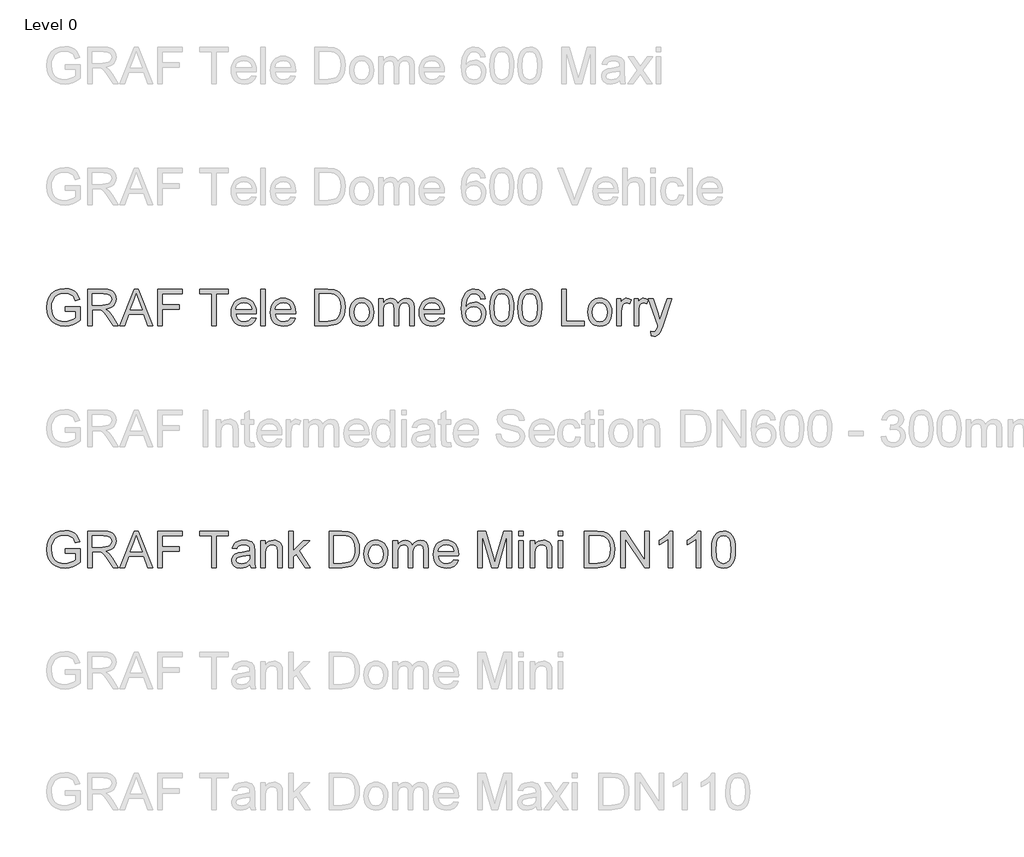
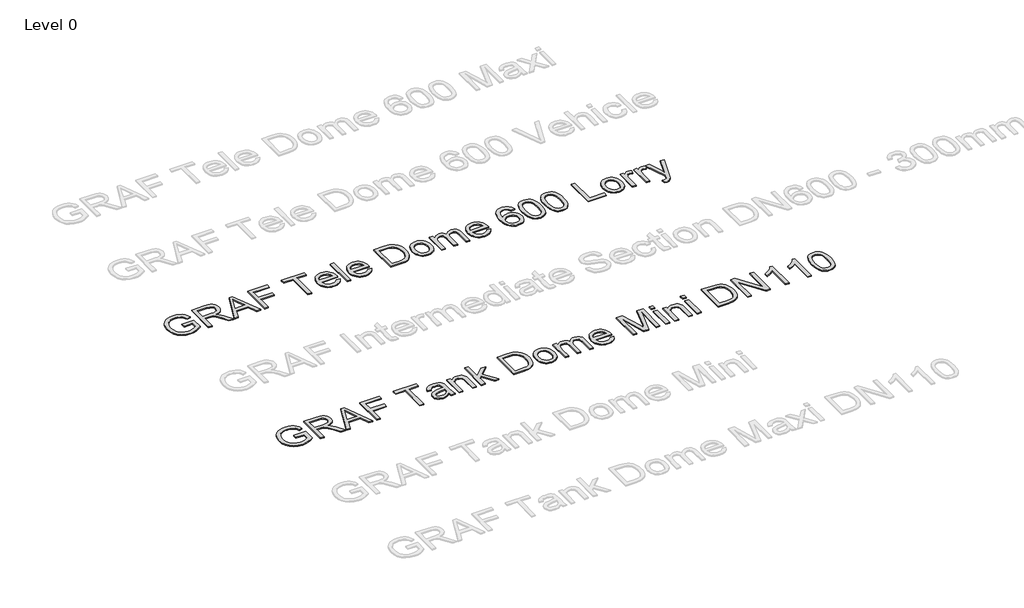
# One storey, part 5 of 19: 2 proxies.
"""IFC4 building model written with IfcOpenShell, lengths in millimetres."""

from ifc_helpers import new_model, si_unit, origin, origin_with_axes, place, context, project, spatial, polyline, outline, extrude, element, save

model = new_model("IFC4")

# Units and contexts
model_context = context("Model", 3, world=origin())
ifc_project = project(units=[si_unit("LENGTHUNIT", "METRE", prefix="MILLI")], contexts=[model_context])

# Site, building, storey
site = spatial("IfcSite", under=ifc_project)
building = spatial("IfcBuilding", under=site)
storey = spatial("IfcBuildingStorey", under=building, Name="Level 0", Elevation=0.0)

# Proxies
placement = place(None, origin())
element("IfcBuildingElementProxy", 1, Name="300mm Arial", ObjectType="300mm Arial", at=placement, inside=storey, context=model_context, shape_type="SweptSolid", body=[
    extrude(outline(polyline([(-15240.9940387, -12082.9794047), (-15240.9940387, -12045.3082884), (-15118.5629107, -12045.3082884), (-15118.5629107, -12157.9537553), (-15148.3153671, -12178.6471176), (-15179.0059225, -12193.4911561), (-15210.5610007, -12202.4306885), (-15242.9070251, -12205.4105327), (-15285.1674693, -12200.674052), (-15323.3628175, -12186.46461), (-15355.0926395, -12163.2788472), (-15377.9565055, -12131.6134045), (-15391.7796715, -12093.6295885), (-15396.3873935, -12051.4887059), (-15391.7980656, -12009.0443207), (-15378.0300819, -11969.5613856), (-15355.6536596, -11936.442809), (-15325.2390156, -11913.0914993), (-15288.1932987, -11899.2407422), (-15245.9236575, -11894.6238232), (-15214.8928112, -11897.3001647), (-15186.9889618, -11905.3291892), (-15163.4904994, -11918.1314827), (-15145.6758138, -11935.1276309), (-15132.4964413, -11957.1361712), (-15122.9039183, -11984.9756412), (-15157.6319786, -11994.7613023), (-15165.3850917, -11974.9048716), (-15174.8120678, -11959.9228773), (-15187.2832674, -11948.6289001), (-15204.169051, -11939.8365204), (-15224.3013932, -11934.1803347), (-15246.5122687, -11932.2949395), (-15272.5123287, -11934.3274875), (-15294.7415982, -11940.4251316), (-15313.1173039, -11949.8245166), (-15327.5566722, -11961.7622873), (-15346.9440533, -11990.7881767), (-15355.7732212, -12019.225455), (-15358.7162772, -12049.9436015), (-15355.175413, -12085.9684459), (-15344.5528204, -12115.6105377), (-15327.1703961, -12138.6583447), (-15303.3500369, -12154.9003348), (-15275.4737787, -12164.529646), (-15245.9236575, -12167.7394164), (-15219.831627, -12165.3205923), (-15194.3833899, -12158.0641199), (-15172.2828791, -12148.0669267), (-15156.234027, -12137.42594), (-15156.234027, -12082.9794047), (-15240.9940387, -12082.9794047)])), origin_with_axes(), (0.0, 0.0, 1.0), 10.0),
    extrude(outline(polyline([(-15057.3473467, -12200.7016432), (-15057.3473467, -11899.3327127), (-14927.4850024, -11899.3327127), (-14892.5821982, -11901.3652607), (-14867.1891434, -11907.4629048), (-14848.6294968, -11918.7200939), (-14834.2269167, -11936.2312768), (-14824.9838815, -11957.9455116), (-14821.9028698, -11981.811856), (-14827.0072325, -12011.4999331), (-14842.3203206, -12036.1112385), (-14853.9200997, -12046.1406214), (-14868.3019865, -12054.1558504), (-14905.4120827, -12064.1438466), (-14884.0013506, -12080.257078), (-14853.467145, -12119.0318402), (-14803.2144645, -12200.7016432), (-14846.9924219, -12200.7016432), (-14886.2086426, -12138.2352804), (-14914.5355562, -12096.8853441), (-14934.4379722, -12077.3508102), (-14952.3538253, -12070.1771113), (-14974.2060158, -12068.8527361), (-15019.6762304, -12068.8527361), (-15019.6762304, -12200.7016432), (-15057.3473467, -12200.7016432)]), holes=[polyline([(-15019.6762304, -12031.1816198), (-14935.3576771, -12031.1816198), (-14911.1418448, -12029.8480476), (-14892.3522719, -12025.8473309), (-14878.2072092, -12018.9127553), (-14867.9249074, -12008.7776063), (-14861.6617165, -11996.5179388), (-14859.5739861, -11983.2098076), (-14863.5563087, -11964.834102), (-14875.5032765, -11950.0268517), (-14896.058683, -11940.2595847), (-14925.8663217, -11937.003829), (-15019.6762304, -11937.003829), (-15019.6762304, -12031.1816198)])]), origin_with_axes(), (0.0, 0.0, 1.0), 10.0),
    extrude(outline(polyline([(-14791.0743586, -12200.7016432), (-14670.7769462, -11899.3327127), (-14638.6976362, -11899.3327127), (-14518.4002238, -12200.7016432), (-14558.2050557, -12200.7016432), (-14592.7123868, -12106.5238524), (-14716.835772, -12106.5238524), (-14751.2695268, -12200.7016432), (-14791.0743586, -12200.7016432)]), holes=[polyline([(-14703.003409, -12068.8527361), (-14606.4711735, -12068.8527361), (-14633.6208647, -11994.7613023), (-14654.7372912, -11937.003829), (-14673.499273, -11988.2865792), (-14703.003409, -12068.8527361)])]), origin_with_axes(), (0.0, 0.0, 1.0), 10.0),
    extrude(outline(polyline([(-14478.1539335, -12200.7016432), (-14478.1539335, -11899.3327127), (-14275.6716834, -11899.3327127), (-14275.6716834, -11937.003829), (-14440.4828172, -11937.003829), (-14440.4828172, -12026.4727303), (-14299.2161311, -12026.4727303), (-14299.2161311, -12064.1438466), (-14440.4828172, -12064.1438466), (-14440.4828172, -12200.7016432), (-14478.1539335, -12200.7016432)])), origin_with_axes(), (0.0, 0.0, 1.0), 10.0),
    extrude(outline(polyline([(-14030.8094274, -12200.7016432), (-14030.8094274, -11937.003829), (-14129.6961077, -11937.003829), (-14129.6961077, -11899.3327127), (-13894.2516308, -11899.3327127), (-13894.2516308, -11937.003829), (-13993.1383111, -11937.003829), (-13993.1383111, -12200.7016432), (-14030.8094274, -12200.7016432)])), origin_with_axes(), (0.0, 0.0, 1.0), 10.0),
    extrude(outline(polyline([(-13701.6286181, -12134.7771896), (-13664.6932658, -12139.4860792), (-13678.001397, -12167.3163521), (-13699.2373851, -12188.1200789), (-13727.9229837, -12201.0879193), (-13763.5799461, -12205.4105327), (-13786.9542484, -12203.5458308), (-13807.7809678, -12197.9517253), (-13826.0601045, -12188.6282159), (-13841.7916583, -12175.5753029), (-13854.4422004, -12159.1562696), (-13863.4783019, -12139.7343995), (-13868.8999628, -12117.3096927), (-13870.7071831, -12091.882149), (-13868.8815687, -12065.5923819), (-13863.4047255, -12042.4204147), (-13854.2766535, -12022.3662475), (-13841.4973527, -12005.4298801), (-13825.8071856, -11991.9745962), (-13807.9465147, -11982.363679), (-13787.9153401, -11976.5971288), (-13765.7136617, -11974.6749453), (-13744.2270539, -11976.5925302), (-13724.7959868, -11982.3452849), (-13707.4204603, -11991.9332094), (-13692.1004744, -12005.3563037), (-13679.5947859, -12022.2558829), (-13670.6621512, -12042.2732619), (-13665.3025704, -12065.4084409), (-13663.5160434, -12091.6614198), (-13663.7367726, -12101.8149629), (-13833.0360668, -12101.8149629), (-13826.5153584, -12130.0131178), (-13811.3678173, -12150.7432682), (-13789.5064297, -12163.4903794), (-13762.8441821, -12167.7394164), (-13742.7946134, -12165.7712477), (-13725.9088298, -12159.8667417), (-13712.1868314, -12149.6580163), (-13701.6286181, -12134.7771896)]), holes=[polyline([(-13833.0360668, -12064.1438466), (-13701.1871597, -12064.1438466), (-13706.2823254, -12044.2414306), (-13716.2703215, -12030.0043974), (-13738.2328766, -12016.7606456), (-13765.8608145, -12012.3460616), (-13791.2538692, -12015.8685317), (-13812.2507341, -12026.4359421), (-13826.8464522, -12042.9078584), (-13833.0360668, -12064.1438466)])]), origin_with_axes(), (0.0, 0.0, 1.0), 10.0),
    extrude(outline(polyline([(-13625.8449271, -12200.7016432), (-13625.8449271, -11899.3327127), (-13588.1738108, -11899.3327127), (-13588.1738108, -12200.7016432), (-13625.8449271, -12200.7016432)])), origin_with_axes(), (0.0, 0.0, 1.0), 10.0),
    extrude(outline(polyline([(-13376.71524, -12134.7771896), (-13339.7798877, -12139.4860792), (-13353.0880188, -12167.3163521), (-13374.324007, -12188.1200789), (-13403.0096056, -12201.0879193), (-13438.666568, -12205.4105327), (-13462.0408702, -12203.5458308), (-13482.8675897, -12197.9517253), (-13501.1467263, -12188.6282159), (-13516.8782801, -12175.5753029), (-13529.5288222, -12159.1562696), (-13538.5649238, -12139.7343995), (-13543.9865847, -12117.3096927), (-13545.793805, -12091.882149), (-13543.9681906, -12065.5923819), (-13538.4913474, -12042.4204147), (-13529.3632754, -12022.3662475), (-13516.5839745, -12005.4298801), (-13500.8938074, -11991.9745962), (-13483.0331366, -11982.363679), (-13463.0019619, -11976.5971288), (-13440.8002835, -11974.6749453), (-13419.3136758, -11976.5925302), (-13399.8826086, -11982.3452849), (-13382.5070821, -11991.9332094), (-13367.1870963, -12005.3563037), (-13354.6814077, -12022.2558829), (-13345.748773, -12042.2732619), (-13340.3891922, -12065.4084409), (-13338.6026653, -12091.6614198), (-13338.8233945, -12101.8149629), (-13508.1226887, -12101.8149629), (-13501.6019803, -12130.0131178), (-13486.4544391, -12150.7432682), (-13464.5930516, -12163.4903794), (-13437.930804, -12167.7394164), (-13417.8812352, -12165.7712477), (-13400.9954517, -12159.8667417), (-13387.2734532, -12149.6580163), (-13376.71524, -12134.7771896)]), holes=[polyline([(-13508.1226887, -12064.1438466), (-13376.2737816, -12064.1438466), (-13381.3689472, -12044.2414306), (-13391.3569434, -12030.0043974), (-13413.3194985, -12016.7606456), (-13440.9474363, -12012.3460616), (-13466.3404911, -12015.8685317), (-13487.3373559, -12026.4359421), (-13501.9330741, -12042.9078584), (-13508.1226887, -12064.1438466)])]), origin_with_axes(), (0.0, 0.0, 1.0), 10.0),
    extrude(outline(polyline([(-13178.500421, -12200.7016432), (-13178.500421, -11899.3327127), (-13074.5369691, -11899.3327127), (-13020.7526214, -11903.6737203), (-12996.7299272, -11912.0430357), (-12976.4596292, -11925.2316052), (-12955.6191142, -11948.1874417), (-12940.7750757, -11976.7350845), (-12931.8907255, -12010.3227107), (-12928.9292754, -12048.3984972), (-12930.9342323, -12080.7445216), (-12936.9491029, -12109.209391), (-12946.1093646, -12133.4436174), (-12957.5504947, -12153.097713), (-12970.7206701, -12168.6131361), (-12985.0680679, -12180.4313452), (-13001.5399842, -12189.1961338), (-13021.0837152, -12195.5512952), (-13069.533774, -12200.7016432), (-13178.500421, -12200.7016432)]), holes=[polyline([(-13140.8293047, -12163.0305269), (-13074.1690871, -12163.0305269), (-13046.5963316, -12161.6693635), (-13025.6822402, -12157.5858733), (-13009.9001026, -12151.0191797), (-12997.7232085, -12142.2084059), (-12984.6358066, -12125.9020365), (-12974.8041602, -12104.794807), (-12968.6513339, -12078.794747), (-12966.6003918, -12047.809886), (-12970.6195026, -12006.7542553), (-12982.6768349, -11976.4407789), (-13000.4915206, -11955.618658), (-13021.782691, -11943.0370938), (-13043.4509405, -11938.5121452), (-13075.1991567, -11937.003829), (-13140.8293047, -11937.003829), (-13140.8293047, -12163.0305269)])]), origin_with_axes(), (0.0, 0.0, 1.0), 10.0),
    extrude(outline(polyline([(-12891.2581591, -12090.042739), (-12889.2210126, -12061.3801331), (-12883.1095729, -12036.6814556), (-12872.9238402, -12015.9467067), (-12858.6638144, -11999.1758862), (-12844.3072195, -11988.4567246), (-12828.4607026, -11980.8001806), (-12811.1242635, -11976.2062541), (-12792.2979024, -11974.6749453), (-12771.514869, -11976.5396472), (-12752.7229968, -11982.1337528), (-12735.9222859, -11991.4572621), (-12721.1127364, -12004.5101751), (-12709.0255136, -12020.8510335), (-12700.391783, -12040.0383788), (-12695.2115447, -12062.0722111), (-12693.4847985, -12086.9525303), (-12696.5382191, -12125.0099227), (-12705.6984808, -12153.9806298), (-12720.6988691, -12175.6764705), (-12741.2726697, -12191.9092635), (-12765.7092312, -12202.0352154), (-12792.2979024, -12205.4105327), (-12813.3844386, -12203.5527286), (-12832.3510547, -12197.9793164), (-12849.1977508, -12188.690296), (-12863.9245269, -12175.6856675), (-12875.882991, -12159.18616), (-12884.4247511, -12139.4125028), (-12889.5498071, -12116.3646958), (-12891.2581591, -12090.042739)]), holes=[polyline([(-12853.5870428, -12089.9691626), (-12849.2276412, -12124.0626265), (-12836.1494363, -12148.3520353), (-12816.4677495, -12162.8925711), (-12792.2979024, -12167.7394164), (-12768.23842, -12162.86498), (-12748.5935214, -12148.2416707), (-12735.5153165, -12123.6303652), (-12731.1559148, -12088.7919402), (-12735.5429076, -12055.6917577), (-12748.703886, -12031.7334428), (-12768.3763757, -12017.1929069), (-12792.2979024, -12012.3460616), (-12816.4677495, -12017.1745128), (-12836.1494363, -12031.6598664), (-12849.2276412, -12055.8940928), (-12853.5870428, -12089.9691626)])]), origin_with_axes(), (0.0, 0.0, 1.0), 10.0),
    extrude(outline(polyline([(-12651.1047927, -12200.7016432), (-12651.1047927, -11979.3838349), (-12613.4336764, -11979.3838349), (-12613.4336764, -12015.8041524), (-12602.1029109, -11999.0747187), (-12587.5347839, -11985.9689226), (-12570.2259361, -11977.4984396), (-12550.673008, -11974.6749453), (-12529.7221284, -11977.5536219), (-12512.9283153, -11986.1896518), (-12500.3835393, -12000.0128178), (-12492.1797708, -12018.4529028), (-12478.4485753, -11999.3000464), (-12462.7859994, -11985.6194347), (-12445.1920429, -11977.4110677), (-12425.666706, -11974.6749453), (-12397.3489895, -11979.227485), (-12376.4073069, -11992.8851041), (-12363.4670577, -12016.0156845), (-12359.1536413, -12048.9871084), (-12359.1536413, -12200.7016432), (-12396.8247576, -12200.7016432), (-12396.8247576, -12065.1739161), (-12400.3196366, -12033.7200056), (-12405.2308612, -12025.0471875), (-12412.9747772, -12018.2321736), (-12422.9351822, -12013.8175896), (-12434.4958739, -12012.3460616), (-12454.9041276, -12016.1168521), (-12471.5415908, -12027.4292234), (-12482.6056419, -12047.0557279), (-12486.2936589, -12075.7689176), (-12486.2936589, -12200.7016432), (-12523.9647752, -12200.7016432), (-12523.9647752, -12060.9800614), (-12526.144476, -12039.6796939), (-12532.6835784, -12024.4861675), (-12544.1890878, -12015.3810881), (-12561.2680095, -12012.3460616), (-12575.7809542, -12014.3694126), (-12589.1534647, -12020.4394655), (-12600.1899246, -12030.4090676), (-12607.6947173, -12044.131066), (-12611.9989366, -12063.1689593), (-12613.4336764, -12089.0862458), (-12613.4336764, -12200.7016432), (-12651.1047927, -12200.7016432)])), origin_with_axes(), (0.0, 0.0, 1.0), 10.0),
    extrude(outline(polyline([(-12147.6950705, -12134.7771896), (-12110.7597182, -12139.4860792), (-12124.0678494, -12167.3163521), (-12145.3038375, -12188.1200789), (-12173.9894361, -12201.0879193), (-12209.6463985, -12205.4105327), (-12233.0207007, -12203.5458308), (-12253.8474202, -12197.9517253), (-12272.1265568, -12188.6282159), (-12287.8581107, -12175.5753029), (-12300.5086528, -12159.1562696), (-12309.5447543, -12139.7343995), (-12314.9664152, -12117.3096927), (-12316.7736355, -12091.882149), (-12314.9480211, -12065.5923819), (-12309.4711779, -12042.4204147), (-12300.3431059, -12022.3662475), (-12287.5638051, -12005.4298801), (-12271.873638, -11991.9745962), (-12254.0129671, -11982.363679), (-12233.9817925, -11976.5971288), (-12211.7801141, -11974.6749453), (-12190.2935063, -11976.5925302), (-12170.8624391, -11982.3452849), (-12153.4869127, -11991.9332094), (-12138.1669268, -12005.3563037), (-12125.6612382, -12022.2558829), (-12116.7286035, -12042.2732619), (-12111.3690227, -12065.4084409), (-12109.5824958, -12091.6614198), (-12109.803225, -12101.8149629), (-12279.1025192, -12101.8149629), (-12272.5818108, -12130.0131178), (-12257.4342697, -12150.7432682), (-12235.5728821, -12163.4903794), (-12208.9106345, -12167.7394164), (-12188.8610658, -12165.7712477), (-12171.9752822, -12159.8667417), (-12158.2532838, -12149.6580163), (-12147.6950705, -12134.7771896)]), holes=[polyline([(-12279.1025192, -12064.1438466), (-12147.2536121, -12064.1438466), (-12152.3487777, -12044.2414306), (-12162.3367739, -12030.0043974), (-12184.299329, -12016.7606456), (-12211.9272668, -12012.3460616), (-12237.3203216, -12015.8685317), (-12258.3171864, -12026.4359421), (-12272.9129046, -12042.9078584), (-12279.1025192, -12064.1438466)])]), origin_with_axes(), (0.0, 0.0, 1.0), 10.0),
    extrude(outline(polyline([(-11770.542449, -11979.3838349), (-11808.2135653, -11984.0927244), (-11814.2836183, -11965.4227132), (-11822.4873868, -11952.675602), (-11839.5755054, -11940.9217723), (-11860.2320795, -11937.003829), (-11877.7432624, -11939.2846974), (-11894.2243758, -11946.1273025), (-11908.3786356, -11960.5390797), (-11919.9393273, -11980.3771163), (-11927.7476226, -12008.4373154), (-11930.6446933, -12047.5155804), (-11915.5339404, -12029.8848358), (-11897.4249492, -12017.4596214), (-11877.3293952, -12010.0927844), (-11856.2589539, -12007.6371721), (-11838.1591597, -12009.3156337), (-11821.4573172, -12014.3510185), (-11806.1534262, -12022.7433265), (-11792.2474868, -12034.4925578), (-11780.6913936, -12048.8997364), (-11772.4370413, -12065.2658866), (-11767.48443, -12083.5910085), (-11765.8335595, -12103.875102), (-11768.9421624, -12130.8500493), (-11778.2679709, -12155.856828), (-11793.038433, -12177.065225), (-11812.4809965, -12192.6450275), (-11835.7127445, -12202.2191564), (-11861.8507602, -12205.4105327), (-11884.3076568, -12203.2952112), (-11904.589451, -12196.9492468), (-11922.696143, -12186.3726395), (-11938.6277326, -12171.5653892), (-11951.6162663, -12151.9020965), (-11960.8937904, -12126.7573621), (-11966.4603048, -12096.131186), (-11968.3158096, -12060.0235682), (-11966.2556705, -12019.5427532), (-11960.075253, -11984.9940353), (-11949.7745571, -11956.3774146), (-11935.3535829, -11933.6928911), (-11919.7231966, -11918.660313), (-11901.6004098, -11907.9227573), (-11880.9852225, -11901.4802239), (-11857.8776347, -11899.3327127), (-11824.8234374, -11904.6486076), (-11798.3543279, -11920.596292), (-11779.8130753, -11945.9249674), (-11770.542449, -11979.3838349)]), holes=[polyline([(-11930.6446933, -12103.2864908), (-11928.4649925, -12119.9791364), (-11921.9258901, -12135.9176238), (-11911.772347, -12149.6212281), (-11898.7493244, -12159.6092243), (-11883.0315661, -12165.7068684), (-11864.7938162, -12167.7394164), (-11839.9341904, -12163.5271676), (-11820.3904594, -12150.890421), (-11807.7261217, -12131.0247933), (-11803.5046758, -12105.1259008), (-11807.6709394, -12080.266275), (-11820.1697302, -12061.3111552), (-11840.044555, -12049.3090051), (-11866.3389206, -12045.3082884), (-11891.1617582, -12049.3090051), (-11911.9194998, -12061.3111552), (-11925.9633949, -12079.8064225), (-11930.6446933, -12103.2864908)])]), origin_with_axes(), (0.0, 0.0, 1.0), 10.0),
    extrude(outline(polyline([(-11732.8713327, -12052.4451991), (-11730.1030207, -12004.2066725), (-11721.7980847, -11965.7354129), (-11708.0392981, -11936.442809), (-11688.9094343, -11915.7402497), (-11664.2705377, -11903.434597), (-11633.9846524, -11899.3327127), (-11610.7712985, -11901.7607339), (-11589.9859658, -11909.0447974), (-11572.6035415, -11920.8997947), (-11559.598913, -11937.0406172), (-11549.7764637, -11957.3293093), (-11541.9405772, -11981.627915), (-11536.8086234, -12012.4840174), (-11535.0979721, -12052.4451991), (-11537.838693, -12100.4078142), (-11546.0608556, -12138.7871034), (-11559.7368687, -12168.1072984), (-11578.8391413, -12188.8926311), (-11603.5332203, -12201.2810573), (-11633.9846524, -12205.4105327), (-11654.733197, -12203.617108), (-11673.1272967, -12198.2368338), (-11689.1669517, -12189.2697102), (-11702.8521619, -12176.7157371), (-11715.9855492, -12154.0220165), (-11725.36654, -12125.7456867), (-11730.9951346, -12091.8867475), (-11732.8713327, -12052.4451991)]), holes=[polyline([(-11695.2002164, -12052.3716227), (-11690.7856325, -12111.6282151), (-11685.2674026, -12131.8962138), (-11677.5418807, -12145.9240141), (-11657.8234057, -12162.2855658), (-11633.9846524, -12167.7394164), (-11610.1458991, -12162.2671717), (-11590.4274242, -12145.8504377), (-11582.7019023, -12131.7996447), (-11577.1836724, -12111.5362446), (-11572.7690884, -12052.3716227), (-11577.0365196, -11994.4486026), (-11582.3708085, -11974.2472825), (-11589.838813, -11959.8860891), (-11609.5204997, -11942.7243941), (-11634.4261108, -11937.003829), (-11658.0073467, -11942.0438124), (-11676.9532695, -11957.1637624), (-11684.9363088, -11972.7987472), (-11690.6384797, -11993.8783855), (-11695.2002164, -12052.3716227)])]), origin_with_axes(), (0.0, 0.0, 1.0), 10.0),
    extrude(outline(polyline([(-11502.1357454, -12052.4451991), (-11499.3674333, -12004.2066725), (-11491.0624973, -11965.7354129), (-11477.3037107, -11936.442809), (-11458.1738469, -11915.7402497), (-11433.5349503, -11903.434597), (-11403.2490651, -11899.3327127), (-11380.0357112, -11901.7607339), (-11359.2503784, -11909.0447974), (-11341.8679542, -11920.8997947), (-11328.8633256, -11937.0406172), (-11319.0408764, -11957.3293093), (-11311.2049899, -11981.627915), (-11306.073036, -12012.4840174), (-11304.3623847, -12052.4451991), (-11307.1031056, -12100.4078142), (-11315.3252682, -12138.7871034), (-11329.0012814, -12168.1072984), (-11348.103554, -12188.8926311), (-11372.7976329, -12201.2810573), (-11403.2490651, -12205.4105327), (-11423.9976096, -12203.617108), (-11442.3917093, -12198.2368338), (-11458.4313643, -12189.2697102), (-11472.1165745, -12176.7157371), (-11485.2499618, -12154.0220165), (-11494.6309527, -12125.7456867), (-11500.2595472, -12091.8867475), (-11502.1357454, -12052.4451991)]), holes=[polyline([(-11464.464629, -12052.3716227), (-11460.0500451, -12111.6282151), (-11454.5318152, -12131.8962138), (-11446.8062933, -12145.9240141), (-11427.0878183, -12162.2855658), (-11403.2490651, -12167.7394164), (-11379.4103118, -12162.2671717), (-11359.6918368, -12145.8504377), (-11351.9663149, -12131.7996447), (-11346.448085, -12111.5362446), (-11342.0335011, -12052.3716227), (-11346.3009322, -11994.4486026), (-11351.6352211, -11974.2472825), (-11359.1032256, -11959.8860891), (-11378.7849124, -11942.7243941), (-11403.6905234, -11937.003829), (-11427.2717593, -11942.0438124), (-11446.2176821, -11957.1637624), (-11454.2007214, -11972.7987472), (-11459.9028923, -11993.8783855), (-11464.464629, -12052.3716227)])]), origin_with_axes(), (0.0, 0.0, 1.0), 10.0),
    extrude(outline(polyline([(-11139.5512509, -12200.7016432), (-11139.5512509, -11899.3327127), (-11101.8801346, -11899.3327127), (-11101.8801346, -12163.0305269), (-10951.1956694, -12163.0305269), (-10951.1956694, -12200.7016432), (-11139.5512509, -12200.7016432)])), origin_with_axes(), (0.0, 0.0, 1.0), 10.0),
    extrude(outline(polyline([(-10922.9423321, -12090.042739), (-10920.9051856, -12061.3801331), (-10914.793746, -12036.6814556), (-10904.6080132, -12015.9467067), (-10890.3479874, -11999.1758862), (-10875.9913925, -11988.4567246), (-10860.1448756, -11980.8001806), (-10842.8084365, -11976.2062541), (-10823.9820754, -11974.6749453), (-10803.199042, -11976.5396472), (-10784.4071698, -11982.1337528), (-10767.6064589, -11991.4572621), (-10752.7969094, -12004.5101751), (-10740.7096866, -12020.8510335), (-10732.075956, -12040.0383788), (-10726.8957177, -12062.0722111), (-10725.1689715, -12086.9525303), (-10728.2223921, -12125.0099227), (-10737.3826538, -12153.9806298), (-10752.3830421, -12175.6764705), (-10772.9568427, -12191.9092635), (-10797.3934042, -12202.0352154), (-10823.9820754, -12205.4105327), (-10845.0686116, -12203.5527286), (-10864.0352277, -12197.9793164), (-10880.8819238, -12188.690296), (-10895.6086999, -12175.6856675), (-10907.567164, -12159.18616), (-10916.1089241, -12139.4125028), (-10921.2339801, -12116.3646958), (-10922.9423321, -12090.042739)]), holes=[polyline([(-10885.2712158, -12089.9691626), (-10880.9118142, -12124.0626265), (-10867.8336093, -12148.3520353), (-10848.1519225, -12162.8925711), (-10823.9820754, -12167.7394164), (-10799.922593, -12162.86498), (-10780.2776944, -12148.2416707), (-10767.1994895, -12123.6303652), (-10762.8400878, -12088.7919402), (-10767.2270806, -12055.6917577), (-10780.388059, -12031.7334428), (-10800.0605487, -12017.1929069), (-10823.9820754, -12012.3460616), (-10848.1519225, -12017.1745128), (-10867.8336093, -12031.6598664), (-10880.9118142, -12055.8940928), (-10885.2712158, -12089.9691626)])]), origin_with_axes(), (0.0, 0.0, 1.0), 10.0),
    extrude(outline(polyline([(-10682.7889657, -12200.7016432), (-10682.7889657, -11979.3838349), (-10649.8267389, -11979.3838349), (-10649.8267389, -12012.1253324), (-10637.6498449, -11993.1426215), (-10626.429444, -11981.9590088), (-10615.172255, -11976.4959612), (-10602.8849963, -11974.6749453), (-10584.1230146, -11977.5812131), (-10565.0667272, -11986.3000164), (-10577.6482915, -12020.0715835), (-10590.8920433, -12014.2774421), (-10604.1357951, -12012.3460616), (-10615.3837871, -12014.2038657), (-10625.4361626, -12019.7772779), (-10633.5571577, -12028.643234), (-10639.0110083, -12040.3786697), (-10643.5911391, -12061.4215198), (-10645.1178494, -12084.3773563), (-10645.1178494, -12200.7016432), (-10682.7889657, -12200.7016432)])), origin_with_axes(), (0.0, 0.0, 1.0), 10.0),
    extrude(outline(polyline([(-10541.5222795, -12200.7016432), (-10541.5222795, -11979.3838349), (-10508.5600528, -11979.3838349), (-10508.5600528, -12012.1253324), (-10496.3831587, -11993.1426215), (-10485.1627579, -11981.9590088), (-10473.9055688, -11976.4959612), (-10461.6183102, -11974.6749453), (-10442.8563284, -11977.5812131), (-10423.8000411, -11986.3000164), (-10436.3816053, -12020.0715835), (-10449.6253572, -12014.2774421), (-10462.869109, -12012.3460616), (-10474.117101, -12014.2038657), (-10484.1694765, -12019.7772779), (-10492.2904715, -12028.643234), (-10497.7443221, -12040.3786697), (-10502.324453, -12061.4215198), (-10503.8511632, -12084.3773563), (-10503.8511632, -12200.7016432), (-10541.5222795, -12200.7016432)])), origin_with_axes(), (0.0, 0.0, 1.0), 10.0),
    extrude(outline(polyline([(-10400.2555934, -12285.4616549), (-10404.9644829, -12249.1884901), (-10385.8346192, -12252.4994281), (-10367.9555542, -12248.3423615), (-10356.9926708, -12236.7540787), (-10346.6919749, -12209.0157763), (-10343.7489189, -12199.8923028), (-10423.8000411, -11979.3838349), (-10384.0687856, -11979.3838349), (-10341.6152034, -12102.2564213), (-10326.8263472, -12151.4054558), (-10312.037491, -12107.9953804), (-10268.4066863, -11979.3838349), (-10228.9697364, -11979.3838349), (-10306.0042262, -12205.9991439), (-10326.0170068, -12255.1481785), (-10336.2625203, -12270.8383456), (-10347.8691973, -12281.7092585), (-10361.3520724, -12288.0552229), (-10377.2261805, -12290.1705444), (-10400.2555934, -12285.4616549)])), origin_with_axes(), (0.0, 0.0, 1.0), 10.0),
])
element("IfcBuildingElementProxy", 2, Name="300mm Arial", ObjectType="300mm Arial", at=placement, inside=storey, context=model_context, shape_type="SweptSolid", body=[
    extrude(outline(polyline([(-15240.9940387, -14082.9794047), (-15240.9940387, -14045.3082884), (-15118.5629107, -14045.3082884), (-15118.5629107, -14157.9537553), (-15148.3153671, -14178.6471176), (-15179.0059225, -14193.4911561), (-15210.5610007, -14202.4306885), (-15242.9070251, -14205.4105327), (-15285.1674693, -14200.674052), (-15323.3628175, -14186.46461), (-15355.0926395, -14163.2788472), (-15377.9565055, -14131.6134045), (-15391.7796715, -14093.6295885), (-15396.3873935, -14051.4887059), (-15391.7980656, -14009.0443207), (-15378.0300819, -13969.5613856), (-15355.6536596, -13936.442809), (-15325.2390156, -13913.0914993), (-15288.1932987, -13899.2407422), (-15245.9236575, -13894.6238232), (-15214.8928112, -13897.3001647), (-15186.9889618, -13905.3291892), (-15163.4904994, -13918.1314827), (-15145.6758138, -13935.1276309), (-15132.4964413, -13957.1361712), (-15122.9039183, -13984.9756412), (-15157.6319786, -13994.7613023), (-15165.3850917, -13974.9048716), (-15174.8120678, -13959.9228773), (-15187.2832674, -13948.6289001), (-15204.169051, -13939.8365204), (-15224.3013932, -13934.1803347), (-15246.5122687, -13932.2949395), (-15272.5123287, -13934.3274875), (-15294.7415982, -13940.4251316), (-15313.1173039, -13949.8245166), (-15327.5566722, -13961.7622873), (-15346.9440533, -13990.7881767), (-15355.7732212, -14019.225455), (-15358.7162772, -14049.9436015), (-15355.175413, -14085.9684459), (-15344.5528204, -14115.6105377), (-15327.1703961, -14138.6583447), (-15303.3500369, -14154.9003348), (-15275.4737787, -14164.529646), (-15245.9236575, -14167.7394164), (-15219.831627, -14165.3205923), (-15194.3833899, -14158.0641199), (-15172.2828791, -14148.0669267), (-15156.234027, -14137.42594), (-15156.234027, -14082.9794047), (-15240.9940387, -14082.9794047)])), origin_with_axes(), (0.0, 0.0, 1.0), 10.0),
    extrude(outline(polyline([(-15057.3473467, -14200.7016432), (-15057.3473467, -13899.3327127), (-14927.4850024, -13899.3327127), (-14892.5821982, -13901.3652607), (-14867.1891434, -13907.4629048), (-14848.6294968, -13918.7200939), (-14834.2269167, -13936.2312768), (-14824.9838815, -13957.9455116), (-14821.9028698, -13981.811856), (-14827.0072325, -14011.4999331), (-14842.3203206, -14036.1112385), (-14853.9200997, -14046.1406214), (-14868.3019865, -14054.1558504), (-14905.4120827, -14064.1438466), (-14884.0013506, -14080.257078), (-14853.467145, -14119.0318402), (-14803.2144645, -14200.7016432), (-14846.9924219, -14200.7016432), (-14886.2086426, -14138.2352804), (-14914.5355562, -14096.8853441), (-14934.4379722, -14077.3508102), (-14952.3538253, -14070.1771113), (-14974.2060158, -14068.8527361), (-15019.6762304, -14068.8527361), (-15019.6762304, -14200.7016432), (-15057.3473467, -14200.7016432)]), holes=[polyline([(-15019.6762304, -14031.1816198), (-14935.3576771, -14031.1816198), (-14911.1418448, -14029.8480476), (-14892.3522719, -14025.8473309), (-14878.2072092, -14018.9127553), (-14867.9249074, -14008.7776063), (-14861.6617165, -13996.5179388), (-14859.5739861, -13983.2098076), (-14863.5563087, -13964.834102), (-14875.5032765, -13950.0268517), (-14896.058683, -13940.2595847), (-14925.8663217, -13937.003829), (-15019.6762304, -13937.003829), (-15019.6762304, -14031.1816198)])]), origin_with_axes(), (0.0, 0.0, 1.0), 10.0),
    extrude(outline(polyline([(-14791.0743586, -14200.7016432), (-14670.7769462, -13899.3327127), (-14638.6976362, -13899.3327127), (-14518.4002238, -14200.7016432), (-14558.2050557, -14200.7016432), (-14592.7123868, -14106.5238524), (-14716.835772, -14106.5238524), (-14751.2695268, -14200.7016432), (-14791.0743586, -14200.7016432)]), holes=[polyline([(-14703.003409, -14068.8527361), (-14606.4711735, -14068.8527361), (-14633.6208647, -13994.7613023), (-14654.7372912, -13937.003829), (-14673.499273, -13988.2865792), (-14703.003409, -14068.8527361)])]), origin_with_axes(), (0.0, 0.0, 1.0), 10.0),
    extrude(outline(polyline([(-14478.1539335, -14200.7016432), (-14478.1539335, -13899.3327127), (-14275.6716834, -13899.3327127), (-14275.6716834, -13937.003829), (-14440.4828172, -13937.003829), (-14440.4828172, -14026.4727303), (-14299.2161311, -14026.4727303), (-14299.2161311, -14064.1438466), (-14440.4828172, -14064.1438466), (-14440.4828172, -14200.7016432), (-14478.1539335, -14200.7016432)])), origin_with_axes(), (0.0, 0.0, 1.0), 10.0),
    extrude(outline(polyline([(-14030.8094274, -14200.7016432), (-14030.8094274, -13937.003829), (-14129.6961077, -13937.003829), (-14129.6961077, -13899.3327127), (-13894.2516308, -13899.3327127), (-13894.2516308, -13937.003829), (-13993.1383111, -13937.003829), (-13993.1383111, -14200.7016432), (-14030.8094274, -14200.7016432)])), origin_with_axes(), (0.0, 0.0, 1.0), 10.0),
    extrude(outline(polyline([(-13715.3138283, -14172.4483059), (-13733.312455, -14187.8809556), (-13751.8445105, -14197.9793164), (-13771.3330592, -14203.5527286), (-13792.2011653, -14205.4105327), (-13823.6826671, -14200.9407665), (-13846.905218, -14187.5314677), (-13861.2250247, -14167.1691993), (-13865.9982936, -14141.8405239), (-13864.1956718, -14126.2239332), (-13858.7878065, -14112.0420823), (-13850.4460822, -14099.9019765), (-13839.8418837, -14090.410621), (-13813.4647447, -14078.049786), (-13780.8703999, -14072.3844033), (-13742.353155, -14066.4247149), (-13715.5345575, -14059.434957), (-13715.3138283, -14051.0472475), (-13717.9073964, -14034.2350404), (-13725.6881006, -14023.2353687), (-13743.088919, -14015.0683884), (-13767.3323425, -14012.3460616), (-13789.7731442, -14014.1578805), (-13805.4449172, -14019.5933369), (-13816.1318891, -14029.6457125), (-13823.6182877, -14045.3082884), (-13861.289404, -14040.5993989), (-13854.7503016, -14019.9980071), (-13844.9922316, -14003.8111994), (-13831.1046863, -13991.4319702), (-13812.1771577, -13982.2533144), (-13789.0281831, -13976.5695376), (-13762.4763001, -13974.6749453), (-13737.009669, -13976.3488084), (-13716.8221445, -13981.3703976), (-13701.601027, -13988.9211756), (-13691.0336167, -13998.1826048), (-13684.0254646, -14009.6329319), (-13679.482122, -14023.7504035), (-13677.642712, -14056.7126303), (-13677.642712, -14103.5807964), (-13675.7297257, -14169.0270034), (-13668.224933, -14200.7016432), (-13705.8960493, -14200.7016432), (-13715.3138283, -14172.4483059)]), holes=[polyline([(-13715.3138283, -14097.1060733), (-13776.0879339, -14108.657568), (-13808.4983377, -14114.7644091), (-13823.1768293, -14124.697223), (-13828.3271773, -14139.1917736), (-13825.522077, -14150.3937803), (-13817.1067764, -14159.5724361), (-13803.2652163, -14165.6976713), (-13784.1813378, -14167.7394164), (-13763.9478281, -14165.4861392), (-13746.0687631, -14158.7263075), (-13731.5742125, -14148.7659025), (-13721.4942459, -14136.9109052), (-13717.0244796, -14124.697223), (-13715.5345575, -14107.7746512), (-13715.3138283, -14097.1060733)])]), origin_with_axes(), (0.0, 0.0, 1.0), 10.0),
    extrude(outline(polyline([(-13625.8449271, -14200.7016432), (-13625.8449271, -13979.3838349), (-13588.1738108, -13979.3838349), (-13588.1738108, -14010.2859225), (-13575.0864088, -13994.70612), (-13559.3686506, -13983.5776896), (-13541.0205361, -13976.9006314), (-13520.0420653, -13974.6749453), (-13501.4732216, -13976.4683701), (-13484.4678764, -13981.8486442), (-13470.2860255, -13990.1443832), (-13460.1876647, -14000.6842024), (-13448.8936874, -14028.3857166), (-13446.9071247, -14064.8060342), (-13446.9071247, -14200.7016432), (-13484.578241, -14200.7016432), (-13484.578241, -14069.8828057), (-13488.9192485, -14036.5526969), (-13494.9249221, -14026.6290801), (-13504.2599277, -14018.9311494), (-13516.2252896, -14013.9923336), (-13530.122032, -14012.3460616), (-13552.1857546, -14016.0432757), (-13570.9937216, -14027.1349178), (-13578.5100106, -14036.1894135), (-13583.8787885, -14048.5640441), (-13588.1738108, -14083.2737103), (-13588.1738108, -14200.7016432), (-13625.8449271, -14200.7016432)])), origin_with_axes(), (0.0, 0.0, 1.0), 10.0),
    extrude(outline(polyline([(-13395.1093397, -14200.7016432), (-13395.1093397, -13899.3327127), (-13357.4382234, -13899.3327127), (-13357.4382234, -14061.274367), (-13272.9725173, -13979.3838349), (-13220.8804268, -13979.3838349), (-13306.3762025, -14062.3044366), (-13216.1715373, -14200.7016432), (-13260.1702239, -14200.7016432), (-13333.3787409, -14088.4976346), (-13357.4382234, -14111.8213531), (-13357.4382234, -14200.7016432), (-13395.1093397, -14200.7016432)])), origin_with_axes(), (0.0, 0.0, 1.0), 10.0),
    extrude(outline(polyline([(-13060.7781825, -14200.7016432), (-13060.7781825, -13899.3327127), (-12956.8147307, -13899.3327127), (-12903.030383, -13903.6737203), (-12879.0076887, -13912.0430357), (-12858.7373908, -13925.2316052), (-12837.8968757, -13948.1874417), (-12823.0528372, -13976.7350845), (-12814.1684871, -14010.3227107), (-12811.207037, -14048.3984972), (-12813.2119939, -14080.7445216), (-12819.2268645, -14109.209391), (-12828.3871262, -14133.4436174), (-12839.8282562, -14153.097713), (-12852.9984316, -14168.6131361), (-12867.3458295, -14180.4313452), (-12883.8177458, -14189.1961338), (-12903.3614768, -14195.5512952), (-12951.8115355, -14200.7016432), (-13060.7781825, -14200.7016432)]), holes=[polyline([(-13023.1070662, -14163.0305269), (-12956.4468487, -14163.0305269), (-12928.8740931, -14161.6693635), (-12907.9600017, -14157.5858733), (-12892.1778641, -14151.0191797), (-12880.0009701, -14142.2084059), (-12866.9135681, -14125.9020365), (-12857.0819218, -14104.794807), (-12850.9290954, -14078.794747), (-12848.8781533, -14047.809886), (-12852.8972641, -14006.7542553), (-12864.9545965, -13976.4407789), (-12882.7692821, -13955.618658), (-12904.0604526, -13943.0370938), (-12925.7287021, -13938.5121452), (-12957.4769183, -13937.003829), (-13023.1070662, -13937.003829), (-13023.1070662, -14163.0305269)])]), origin_with_axes(), (0.0, 0.0, 1.0), 10.0),
    extrude(outline(polyline([(-12773.5359207, -14090.042739), (-12771.4987741, -14061.3801331), (-12765.3873345, -14036.6814556), (-12755.2016018, -14015.9467067), (-12740.9415759, -13999.1758862), (-12726.5849811, -13988.4567246), (-12710.7384641, -13980.8001806), (-12693.4020251, -13976.2062541), (-12674.575664, -13974.6749453), (-12653.7926305, -13976.5396472), (-12635.0007584, -13982.1337528), (-12618.2000475, -13991.4572621), (-12603.3904979, -14004.5101751), (-12591.3032751, -14020.8510335), (-12582.6695445, -14040.0383788), (-12577.4893062, -14062.0722111), (-12575.7625601, -14086.9525303), (-12578.8159806, -14125.0099227), (-12587.9762423, -14153.9806298), (-12602.9766307, -14175.6764705), (-12623.5504313, -14191.9092635), (-12647.9869928, -14202.0352154), (-12674.575664, -14205.4105327), (-12695.6622001, -14203.5527286), (-12714.6288162, -14197.9793164), (-12731.4755123, -14188.690296), (-12746.2022884, -14175.6856675), (-12758.1607526, -14159.18616), (-12766.7025126, -14139.4125028), (-12771.8275687, -14116.3646958), (-12773.5359207, -14090.042739)]), holes=[polyline([(-12735.8648044, -14089.9691626), (-12731.5054027, -14124.0626265), (-12718.4271978, -14148.3520353), (-12698.7455111, -14162.8925711), (-12674.575664, -14167.7394164), (-12650.5161815, -14162.86498), (-12630.871283, -14148.2416707), (-12617.793078, -14123.6303652), (-12613.4336764, -14088.7919402), (-12617.8206692, -14055.6917577), (-12630.9816476, -14031.7334428), (-12650.6541372, -14017.1929069), (-12674.575664, -14012.3460616), (-12698.7455111, -14017.1745128), (-12718.4271978, -14031.6598664), (-12731.5054027, -14055.8940928), (-12735.8648044, -14089.9691626)])]), origin_with_axes(), (0.0, 0.0, 1.0), 10.0),
    extrude(outline(polyline([(-12533.3825542, -14200.7016432), (-12533.3825542, -13979.3838349), (-12495.7114379, -13979.3838349), (-12495.7114379, -14015.8041524), (-12484.3806725, -13999.0747187), (-12469.8125455, -13985.9689226), (-12452.5036976, -13977.4984396), (-12432.9507696, -13974.6749453), (-12411.9998899, -13977.5536219), (-12395.2060768, -13986.1896518), (-12382.6613008, -14000.0128178), (-12374.4575323, -14018.4529028), (-12360.7263368, -13999.3000464), (-12345.0637609, -13985.6194347), (-12327.4698045, -13977.4110677), (-12307.9444676, -13974.6749453), (-12279.626751, -13979.227485), (-12258.6850684, -13992.8851041), (-12245.7448193, -14016.0156845), (-12241.4314029, -14048.9871084), (-12241.4314029, -14200.7016432), (-12279.1025192, -14200.7016432), (-12279.1025192, -14065.1739161), (-12282.5973981, -14033.7200056), (-12287.5086228, -14025.0471875), (-12295.2525388, -14018.2321736), (-12305.2129438, -14013.8175896), (-12316.7736355, -14012.3460616), (-12337.1818892, -14016.1168521), (-12353.8193524, -14027.4292234), (-12364.8834034, -14047.0557279), (-12368.5714204, -14075.7689176), (-12368.5714204, -14200.7016432), (-12406.2425367, -14200.7016432), (-12406.2425367, -14060.9800614), (-12408.4222375, -14039.6796939), (-12414.96134, -14024.4861675), (-12426.4668494, -14015.3810881), (-12443.545771, -14012.3460616), (-12458.0587157, -14014.3694126), (-12471.4312262, -14020.4394655), (-12482.4676861, -14030.4090676), (-12489.9724788, -14044.131066), (-12494.2766981, -14063.1689593), (-12495.7114379, -14089.0862458), (-12495.7114379, -14200.7016432), (-12533.3825542, -14200.7016432)])), origin_with_axes(), (0.0, 0.0, 1.0), 10.0),
    extrude(outline(polyline([(-12029.972832, -14134.7771896), (-11993.0374797, -14139.4860792), (-12006.3456109, -14167.3163521), (-12027.5815991, -14188.1200789), (-12056.2671976, -14201.0879193), (-12091.92416, -14205.4105327), (-12115.2984623, -14203.5458308), (-12136.1251817, -14197.9517253), (-12154.4043184, -14188.6282159), (-12170.1358722, -14175.5753029), (-12182.7864143, -14159.1562696), (-12191.8225158, -14139.7343995), (-12197.2441767, -14117.3096927), (-12199.051397, -14091.882149), (-12197.2257826, -14065.5923819), (-12191.7489394, -14042.4204147), (-12182.6208674, -14022.3662475), (-12169.8415666, -14005.4298801), (-12154.1513995, -13991.9745962), (-12136.2907286, -13982.363679), (-12116.259554, -13976.5971288), (-12094.0578756, -13974.6749453), (-12072.5712678, -13976.5925302), (-12053.1402007, -13982.3452849), (-12035.7646742, -13991.9332094), (-12020.4446884, -14005.3563037), (-12007.9389998, -14022.2558829), (-11999.0063651, -14042.2732619), (-11993.6467843, -14065.4084409), (-11991.8602573, -14091.6614198), (-11992.0809865, -14101.8149629), (-12161.3802807, -14101.8149629), (-12154.8595723, -14130.0131178), (-12139.7120312, -14150.7432682), (-12117.8506436, -14163.4903794), (-12091.188396, -14167.7394164), (-12071.1388273, -14165.7712477), (-12054.2530437, -14159.8667417), (-12040.5310453, -14149.6580163), (-12029.972832, -14134.7771896)]), holes=[polyline([(-12161.3802807, -14064.1438466), (-12029.5313736, -14064.1438466), (-12034.6265393, -14044.2414306), (-12044.6145354, -14030.0043974), (-12066.5770906, -14016.7606456), (-12094.2050284, -14012.3460616), (-12119.5980831, -14015.8685317), (-12140.594948, -14026.4359421), (-12155.1906661, -14042.9078584), (-12161.3802807, -14064.1438466)])]), origin_with_axes(), (0.0, 0.0, 1.0), 10.0),
    extrude(outline(polyline([(-11831.758013, -14200.7016432), (-11831.758013, -13899.3327127), (-11766.9372055, -13899.3327127), (-11705.2801831, -14111.7477767), (-11692.8457717, -14156.1143454), (-11679.3812906, -14108.0689568), (-11618.7543378, -13899.3327127), (-11553.9335303, -13899.3327127), (-11553.9335303, -14200.7016432), (-11591.6046466, -14200.7016432), (-11591.6046466, -13937.003829), (-11667.3147612, -14200.7016432), (-11718.3767821, -14200.7016432), (-11794.0868967, -13937.003829), (-11794.0868967, -14200.7016432), (-11831.758013, -14200.7016432)])), origin_with_axes(), (0.0, 0.0, 1.0), 10.0),
    extrude(outline(polyline([(-11492.7179663, -13937.003829), (-11492.7179663, -13899.3327127), (-11455.04685, -13899.3327127), (-11455.04685, -13937.003829), (-11492.7179663, -13937.003829)])), origin_with_axes(), (0.0, 0.0, 1.0), 10.0),
    extrude(outline(polyline([(-11492.7179663, -14200.7016432), (-11492.7179663, -13979.3838349), (-11455.04685, -13979.3838349), (-11455.04685, -14200.7016432), (-11492.7179663, -14200.7016432)])), origin_with_axes(), (0.0, 0.0, 1.0), 10.0),
    extrude(outline(polyline([(-11398.5401755, -14200.7016432), (-11398.5401755, -13979.3838349), (-11360.8690592, -13979.3838349), (-11360.8690592, -14010.2859225), (-11347.7816572, -13994.70612), (-11332.063899, -13983.5776896), (-11313.7157845, -13976.9006314), (-11292.7373137, -13974.6749453), (-11274.16847, -13976.4683701), (-11257.1631248, -13981.8486442), (-11242.9812739, -13990.1443832), (-11232.8829131, -14000.6842024), (-11221.5889358, -14028.3857166), (-11219.6023731, -14064.8060342), (-11219.6023731, -14200.7016432), (-11257.2734894, -14200.7016432), (-11257.2734894, -14069.8828057), (-11261.6144969, -14036.5526969), (-11267.6201705, -14026.6290801), (-11276.9551761, -14018.9311494), (-11288.920538, -14013.9923336), (-11302.8172804, -14012.3460616), (-11324.881003, -14016.0432757), (-11343.68897, -14027.1349178), (-11351.205259, -14036.1894135), (-11356.5740369, -14048.5640441), (-11360.8690592, -14083.2737103), (-11360.8690592, -14200.7016432), (-11398.5401755, -14200.7016432)])), origin_with_axes(), (0.0, 0.0, 1.0), 10.0),
    extrude(outline(polyline([(-11167.8045881, -13937.003829), (-11167.8045881, -13899.3327127), (-11130.1334718, -13899.3327127), (-11130.1334718, -13937.003829), (-11167.8045881, -13937.003829)])), origin_with_axes(), (0.0, 0.0, 1.0), 10.0),
    extrude(outline(polyline([(-11167.8045881, -14200.7016432), (-11167.8045881, -13979.3838349), (-11130.1334718, -13979.3838349), (-11130.1334718, -14200.7016432), (-11167.8045881, -14200.7016432)])), origin_with_axes(), (0.0, 0.0, 1.0), 10.0),
    extrude(outline(polyline([(-10951.1956694, -14200.7016432), (-10951.1956694, -13899.3327127), (-10847.2322175, -13899.3327127), (-10793.4478698, -13903.6737203), (-10769.4251756, -13912.0430357), (-10749.1548776, -13925.2316052), (-10728.3143626, -13948.1874417), (-10713.4703241, -13976.7350845), (-10704.5859739, -14010.3227107), (-10701.6245239, -14048.3984972), (-10703.6294807, -14080.7445216), (-10709.6443513, -14109.209391), (-10718.804613, -14133.4436174), (-10730.2457431, -14153.097713), (-10743.4159185, -14168.6131361), (-10757.7633163, -14180.4313452), (-10774.2352326, -14189.1961338), (-10793.7789636, -14195.5512952), (-10842.2290224, -14200.7016432), (-10951.1956694, -14200.7016432)]), holes=[polyline([(-10913.5245531, -14163.0305269), (-10846.8643355, -14163.0305269), (-10819.29158, -14161.6693635), (-10798.3774886, -14157.5858733), (-10782.595351, -14151.0191797), (-10770.4184569, -14142.2084059), (-10757.331055, -14125.9020365), (-10747.4994086, -14104.794807), (-10741.3465823, -14078.794747), (-10739.2956402, -14047.809886), (-10743.314751, -14006.7542553), (-10755.3720833, -13976.4407789), (-10773.186769, -13955.618658), (-10794.4779394, -13943.0370938), (-10816.1461889, -13938.5121452), (-10847.8944051, -13937.003829), (-10913.5245531, -13937.003829), (-10913.5245531, -14163.0305269)])]), origin_with_axes(), (0.0, 0.0, 1.0), 10.0),
    extrude(outline(polyline([(-10649.8267389, -14200.7016432), (-10649.8267389, -13899.3327127), (-10609.5068723, -13899.3327127), (-10452.0533783, -14138.0881276), (-10452.0533783, -13899.3327127), (-10414.382262, -13899.3327127), (-10414.382262, -14200.7016432), (-10454.7021287, -14200.7016432), (-10612.1556226, -13961.8726519), (-10612.1556226, -14200.7016432), (-10649.8267389, -14200.7016432)])), origin_with_axes(), (0.0, 0.0, 1.0), 10.0),
    extrude(outline(polyline([(-10221.3177909, -14200.7016432), (-10258.9889073, -14200.7016432), (-10258.9889073, -13965.8457775), (-10294.6734608, -13991.2664233), (-10334.3311399, -14010.2859225), (-10334.3311399, -13974.6749453), (-10304.7442304, -13958.580108), (-10279.1120524, -13939.4318502), (-10258.9061338, -13919.0695818), (-10245.5980026, -13899.3327127), (-10221.3177909, -13899.3327127), (-10221.3177909, -14200.7016432)])), origin_with_axes(), (0.0, 0.0, 1.0), 10.0),
    extrude(outline(polyline([(-9990.5822036, -14200.7016432), (-10028.2533199, -14200.7016432), (-10028.2533199, -13965.8457775), (-10063.9378734, -13991.2664233), (-10103.5955525, -14010.2859225), (-10103.5955525, -13974.6749453), (-10074.008643, -13958.580108), (-10048.376465, -13939.4318502), (-10028.1705464, -13919.0695818), (-10014.8624153, -13899.3327127), (-9990.5822036, -13899.3327127), (-9990.5822036, -14200.7016432)])), origin_with_axes(), (0.0, 0.0, 1.0), 10.0),
    extrude(outline(polyline([(-9901.1133023, -14052.4451991), (-9898.3449903, -14004.2066725), (-9890.0400543, -13965.7354129), (-9876.2812677, -13936.442809), (-9857.1514039, -13915.7402497), (-9832.5125073, -13903.434597), (-9802.226622, -13899.3327127), (-9779.0132681, -13901.7607339), (-9758.2279354, -13909.0447974), (-9740.8455111, -13920.8997947), (-9727.8408826, -13937.0406172), (-9718.0184333, -13957.3293093), (-9710.1825468, -13981.627915), (-9705.050593, -14012.4840174), (-9703.3399417, -14052.4451991), (-9706.0806626, -14100.4078142), (-9714.3028252, -14138.7871034), (-9727.9788384, -14168.1072984), (-9747.081111, -14188.8926311), (-9771.7751899, -14201.2810573), (-9802.226622, -14205.4105327), (-9822.9751666, -14203.617108), (-9841.3692663, -14198.2368338), (-9857.4089213, -14189.2697102), (-9871.0941315, -14176.7157371), (-9884.2275188, -14154.0220165), (-9893.6085096, -14125.7456867), (-9899.2371042, -14091.8867475), (-9901.1133023, -14052.4451991)]), holes=[polyline([(-9863.442186, -14052.3716227), (-9859.0276021, -14111.6282151), (-9853.5093722, -14131.8962138), (-9845.7838503, -14145.9240141), (-9826.0653753, -14162.2855658), (-9802.226622, -14167.7394164), (-9778.3878688, -14162.2671717), (-9758.6693938, -14145.8504377), (-9750.9438719, -14131.7996447), (-9745.425642, -14111.5362446), (-9741.011058, -14052.3716227), (-9745.2784892, -13994.4486026), (-9750.6127781, -13974.2472825), (-9758.0807826, -13959.8860891), (-9777.7624694, -13942.7243941), (-9802.6680804, -13937.003829), (-9826.2493163, -13942.0438124), (-9845.1952391, -13957.1637624), (-9853.1782784, -13972.7987472), (-9858.8804493, -13993.8783855), (-9863.442186, -14052.3716227)])]), origin_with_axes(), (0.0, 0.0, 1.0), 10.0),
])

save(model, "model.ifc")
